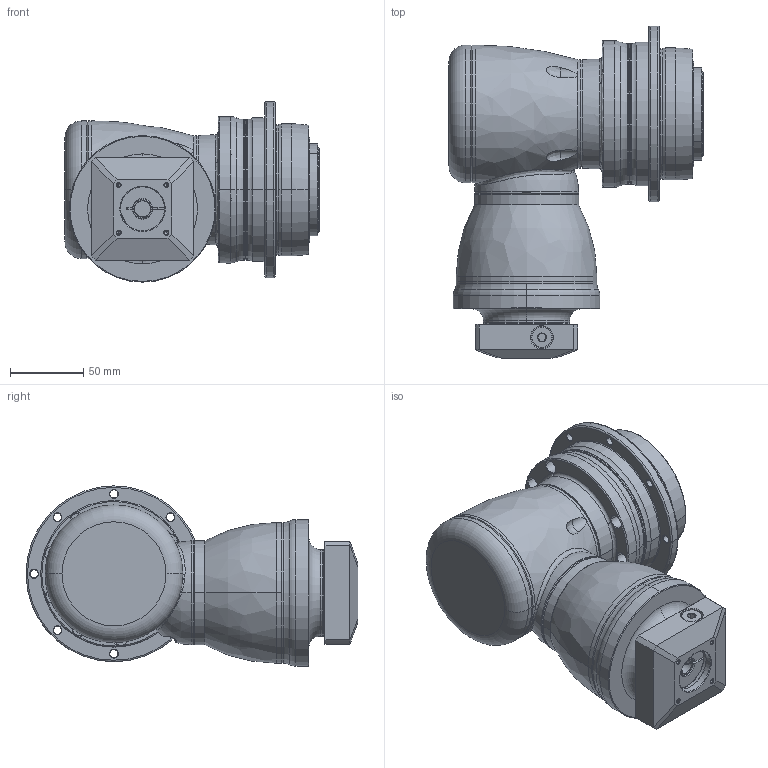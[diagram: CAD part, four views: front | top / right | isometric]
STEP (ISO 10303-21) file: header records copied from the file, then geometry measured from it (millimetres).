
FILE_DESCRIPTION((''),'2;1');
FILE_NAME('AHK090_2ST_11-P0409200101_ASM','2016-09-21T',('d01943'),(''),'PRO/ENGINEER BY PARAMETRIC TECHNOLOGY CORPORATION, 2008410','PRO/ENGINEER BY PARAMETRIC TECHNOLOGY CORPORATION, 2008410','');
FILE_SCHEMA(('CONFIG_CONTROL_DESIGN'));
Length unit declared in the file: millimetre
Products named in the file (12): P1008300002; P1802300011; P0278300003; P0359300003; P1315300001; P1007300001; P1318300001; P0503200005; P0912300201; P0409200101; 21711410012; AHK090_2ST_11-P0409200101_ASM
Assembly tree (11 placements, depth 2):
  AHK090_2ST_11-P0409200101_ASM
    P1008300002
    P1802300011
    P0278300003
    P0359300003
    P1315300001
    P1007300001
    P1318300001
    P0503200005
    P0912300201
    P0409200101
    21711410012
Bounding box: 173.5 x 226.5 x 123 mm (x, y, z)
Volume: 1316255.5 mm3; surface area: 252056 mm2
Topology: 12 solids, 12 shells, 917 faces, 2105 edges, 1234 vertices
Faces by surface type: cylinder 314, cone 268, plane 141, torus 130, bspline 62, sphere 2
Entity records: 34483 total; most frequent: CARTESIAN_POINT 13667, DIRECTION 4674, ORIENTED_EDGE 4062, EDGE_CURVE 2031, AXIS2_PLACEMENT_3D 2014, VERTEX_POINT 1228, CIRCLE 1136, EDGE_LOOP 1057
